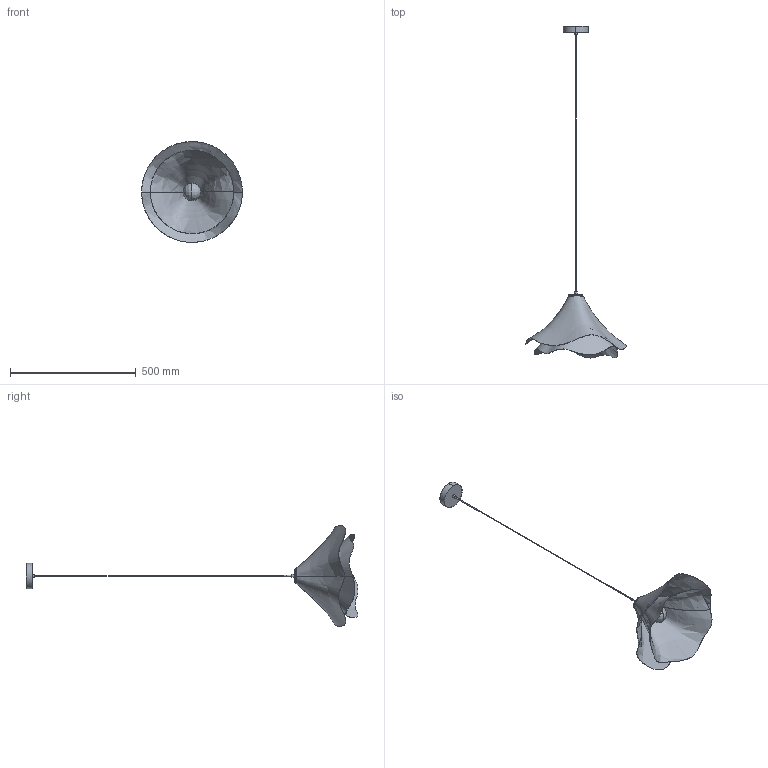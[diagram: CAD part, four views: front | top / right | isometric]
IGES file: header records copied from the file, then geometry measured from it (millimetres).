
Global section: file name: Lia Pendant Lamp-3D; native system: AutoCAD 2022 - 简体中文 (Simplified Chinese),62HAuto; preprocessor: desk Translation Framework DWG producer (atf_dwg_producer); organization: unknown; date: 20241028.174257; units: millimetre
Bounding box: 400.7 x 1319.58 x 400.7 mm (x, y, z)
Surface area: 731780.4 mm2 (no closed solid volume)
Topology: 0 solids, 0 shells, 67 faces, 3006 edges, 3004 vertices
Faces by surface type: bspline 39, revolution 28
